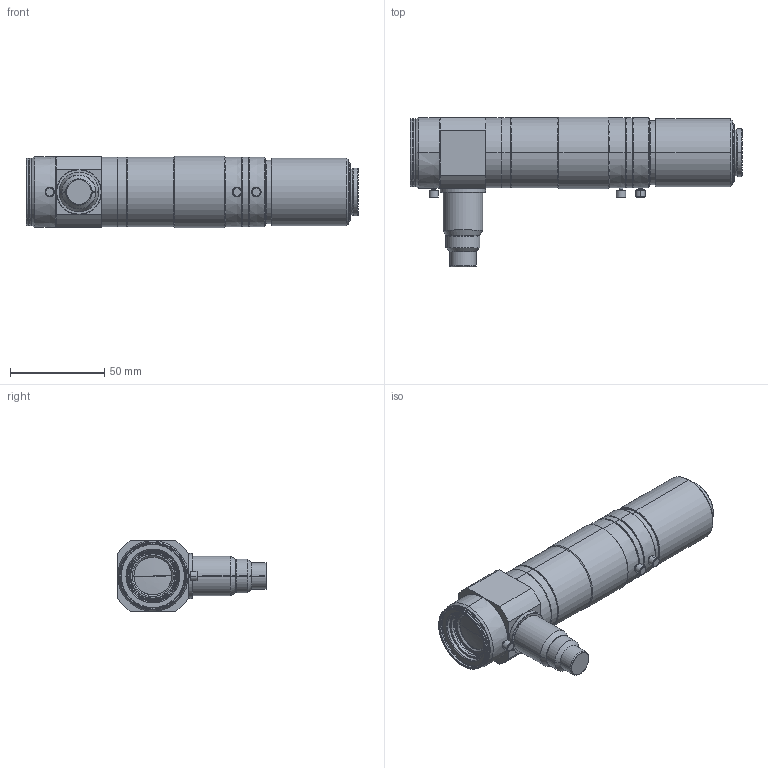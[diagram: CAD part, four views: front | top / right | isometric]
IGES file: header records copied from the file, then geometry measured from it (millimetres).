
Start section: SolidWorks IGES file using analytic representation for surfaces
Global section: file name: \\192.168.200.11\Development\3 製品\1 標準品\04 ズームレンズ\03 6x (VSZ-0745 VSZ-0530 series)\VSZ-0530&CO\10.3D外観モデル\VSZ-0530CO\VSZ-0530CO.IGS; native system: SolidWorks 2015; preprocessor: SolidWorks 2015; author: miura_vst; date: 150909.115014; units: millimetre
Bounding box: 176.29 x 79.6 x 38 mm (x, y, z)
Surface area: 34190.3 mm2 (no closed solid volume)
Topology: 0 solids, 0 shells, 304 faces, 5386 edges, 5384 vertices
Faces by surface type: revolution 254, bspline 50
